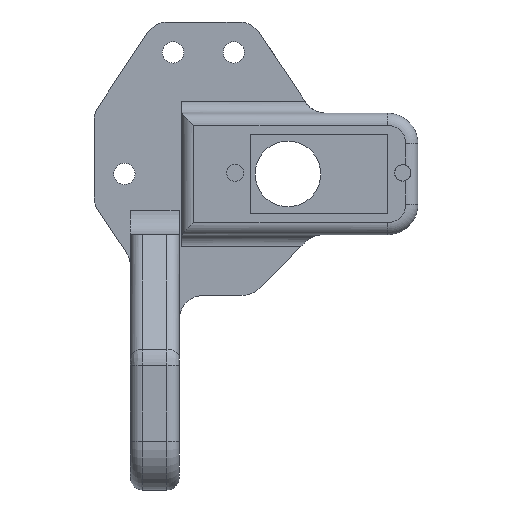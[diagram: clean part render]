
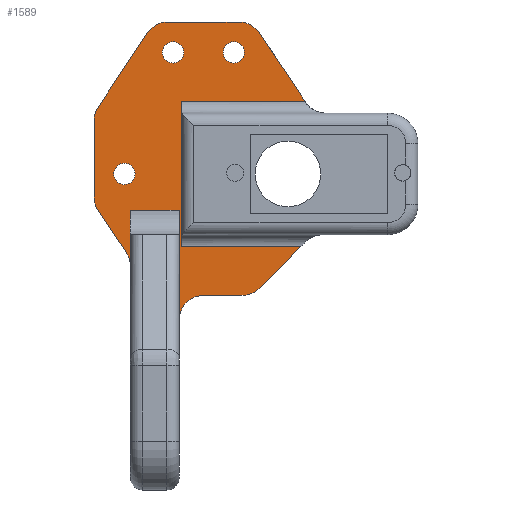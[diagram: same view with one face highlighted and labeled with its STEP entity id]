
A CAD part, front view. The second image highlights one B-rep face of the part: STEP entity #1589.
In plain terms, the highlighted planar face has unit normal (0, -1, 0).
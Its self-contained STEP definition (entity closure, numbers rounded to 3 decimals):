
#45=FACE_BOUND('',#198,.T.);
#46=FACE_BOUND('',#199,.T.);
#47=FACE_BOUND('',#200,.T.);
#62=PLANE('',#1714);
#98=FACE_OUTER_BOUND('',#197,.T.);
#197=EDGE_LOOP('',(#1073,#1074,#1075,#1076,#1077,#1078,#1079,#1080,#1081,
#1082,#1083,#1084,#1085,#1086,#1087,#1088,#1089,#1090,#1091,#1092));
#198=EDGE_LOOP('',(#1093));
#199=EDGE_LOOP('',(#1094));
#200=EDGE_LOOP('',(#1095));
#319=CIRCLE('',#1715,4.);
#320=CIRCLE('',#1716,4.);
#321=CIRCLE('',#1717,4.);
#322=CIRCLE('',#1718,4.);
#323=CIRCLE('',#1719,4.);
#324=CIRCLE('',#1720,4.);
#325=CIRCLE('',#1721,4.);
#326=CIRCLE('',#1722,1.75);
#327=CIRCLE('',#1723,1.75);
#328=CIRCLE('',#1724,1.75);
#425=LINE('',#2489,#546);
#426=LINE('',#2491,#547);
#427=LINE('',#2493,#548);
#428=LINE('',#2497,#549);
#429=LINE('',#2501,#550);
#430=LINE('',#2505,#551);
#431=LINE('',#2509,#552);
#432=LINE('',#2513,#553);
#433=LINE('',#2515,#554);
#434=LINE('',#2517,#555);
#435=LINE('',#2521,#556);
#436=LINE('',#2525,#557);
#437=LINE('',#2526,#558);
#546=VECTOR('',#1952,24.);
#547=VECTOR('',#1953,20.267);
#548=VECTOR('',#1954,13.483);
#549=VECTOR('',#1957,11.719);
#550=VECTOR('',#1960,14.676);
#551=VECTOR('',#1963,12.578);
#552=VECTOR('',#1966,8.394);
#553=VECTOR('',#1969,9.211);
#554=VECTOR('',#1970,8.);
#555=VECTOR('',#1971,18.);
#556=VECTOR('',#1974,6.343);
#557=VECTOR('',#1977,9.657);
#558=VECTOR('',#1978,19.6);
#675=VERTEX_POINT('',#2487);
#676=VERTEX_POINT('',#2488);
#677=VERTEX_POINT('',#2490);
#678=VERTEX_POINT('',#2492);
#679=VERTEX_POINT('',#2494);
#680=VERTEX_POINT('',#2496);
#681=VERTEX_POINT('',#2498);
#682=VERTEX_POINT('',#2500);
#683=VERTEX_POINT('',#2502);
#684=VERTEX_POINT('',#2504);
#685=VERTEX_POINT('',#2506);
#686=VERTEX_POINT('',#2508);
#687=VERTEX_POINT('',#2510);
#688=VERTEX_POINT('',#2512);
#689=VERTEX_POINT('',#2514);
#690=VERTEX_POINT('',#2516);
#691=VERTEX_POINT('',#2518);
#692=VERTEX_POINT('',#2520);
#693=VERTEX_POINT('',#2522);
#694=VERTEX_POINT('',#2524);
#695=VERTEX_POINT('',#2527);
#696=VERTEX_POINT('',#2529);
#697=VERTEX_POINT('',#2531);
#827=EDGE_CURVE('',#675,#676,#425,.T.);
#828=EDGE_CURVE('',#675,#677,#426,.F.);
#829=EDGE_CURVE('',#677,#678,#427,.T.);
#830=EDGE_CURVE('',#678,#679,#319,.F.);
#831=EDGE_CURVE('',#680,#679,#428,.T.);
#832=EDGE_CURVE('',#680,#681,#320,.F.);
#833=EDGE_CURVE('',#682,#681,#429,.T.);
#834=EDGE_CURVE('',#682,#683,#321,.F.);
#835=EDGE_CURVE('',#684,#683,#430,.T.);
#836=EDGE_CURVE('',#684,#685,#322,.F.);
#837=EDGE_CURVE('',#685,#686,#431,.T.);
#838=EDGE_CURVE('',#686,#687,#323,.T.);
#839=EDGE_CURVE('',#687,#688,#432,.T.);
#840=EDGE_CURVE('',#688,#689,#433,.T.);
#841=EDGE_CURVE('',#690,#689,#434,.T.);
#842=EDGE_CURVE('',#690,#691,#324,.T.);
#843=EDGE_CURVE('',#691,#692,#435,.T.);
#844=EDGE_CURVE('',#692,#693,#325,.F.);
#845=EDGE_CURVE('',#693,#694,#436,.T.);
#846=EDGE_CURVE('',#694,#676,#437,.F.);
#847=EDGE_CURVE('',#695,#695,#326,.T.);
#848=EDGE_CURVE('',#696,#696,#327,.T.);
#849=EDGE_CURVE('',#697,#697,#328,.T.);
#1073=ORIENTED_EDGE('',*,*,#827,.F.);
#1074=ORIENTED_EDGE('',*,*,#828,.T.);
#1075=ORIENTED_EDGE('',*,*,#829,.T.);
#1076=ORIENTED_EDGE('',*,*,#830,.T.);
#1077=ORIENTED_EDGE('',*,*,#831,.F.);
#1078=ORIENTED_EDGE('',*,*,#832,.T.);
#1079=ORIENTED_EDGE('',*,*,#833,.F.);
#1080=ORIENTED_EDGE('',*,*,#834,.T.);
#1081=ORIENTED_EDGE('',*,*,#835,.F.);
#1082=ORIENTED_EDGE('',*,*,#836,.T.);
#1083=ORIENTED_EDGE('',*,*,#837,.T.);
#1084=ORIENTED_EDGE('',*,*,#838,.T.);
#1085=ORIENTED_EDGE('',*,*,#839,.T.);
#1086=ORIENTED_EDGE('',*,*,#840,.T.);
#1087=ORIENTED_EDGE('',*,*,#841,.F.);
#1088=ORIENTED_EDGE('',*,*,#842,.T.);
#1089=ORIENTED_EDGE('',*,*,#843,.T.);
#1090=ORIENTED_EDGE('',*,*,#844,.T.);
#1091=ORIENTED_EDGE('',*,*,#845,.T.);
#1092=ORIENTED_EDGE('',*,*,#846,.T.);
#1093=ORIENTED_EDGE('',*,*,#847,.T.);
#1094=ORIENTED_EDGE('',*,*,#848,.T.);
#1095=ORIENTED_EDGE('',*,*,#849,.T.);
#1589=ADVANCED_FACE('',(#98,#45,#46,#47),#62,.F.);
#1714=AXIS2_PLACEMENT_3D('',#2486,#1950,#1951);
#1715=AXIS2_PLACEMENT_3D('',#2495,#1955,#1956);
#1716=AXIS2_PLACEMENT_3D('',#2499,#1958,#1959);
#1717=AXIS2_PLACEMENT_3D('',#2503,#1961,#1962);
#1718=AXIS2_PLACEMENT_3D('',#2507,#1964,#1965);
#1719=AXIS2_PLACEMENT_3D('',#2511,#1967,#1968);
#1720=AXIS2_PLACEMENT_3D('',#2519,#1972,#1973);
#1721=AXIS2_PLACEMENT_3D('',#2523,#1975,#1976);
#1722=AXIS2_PLACEMENT_3D('',#2528,#1979,#1980);
#1723=AXIS2_PLACEMENT_3D('',#2530,#1981,#1982);
#1724=AXIS2_PLACEMENT_3D('',#2532,#1983,#1984);
#1950=DIRECTION('center_axis',(0.,1.,0.));
#1951=DIRECTION('ref_axis',(0.,0.,1.));
#1952=DIRECTION('',(0.,0.,-1.));
#1953=DIRECTION('',(-1.,0.,0.));
#1954=DIRECTION('',(-0.555,0.,0.832));
#1955=DIRECTION('center_axis',(0.,1.,0.));
#1956=DIRECTION('ref_axis',(0.,0.,1.));
#1957=DIRECTION('',(1.,0.,0.));
#1958=DIRECTION('center_axis',(0.,1.,0.));
#1959=DIRECTION('ref_axis',(0.,0.,1.));
#1960=DIRECTION('',(0.555,0.,0.832));
#1961=DIRECTION('center_axis',(0.,1.,0.));
#1962=DIRECTION('ref_axis',(0.,0.,1.));
#1963=DIRECTION('',(0.,0.,1.));
#1964=DIRECTION('center_axis',(0.,1.,0.));
#1965=DIRECTION('ref_axis',(0.,0.,1.));
#1966=DIRECTION('',(0.555,0.,-0.832));
#1967=DIRECTION('center_axis',(0.,1.,0.));
#1968=DIRECTION('ref_axis',(0.,0.,1.));
#1969=DIRECTION('',(0.,0.,1.));
#1970=DIRECTION('',(1.,0.,0.));
#1971=DIRECTION('',(0.,0.,1.));
#1972=DIRECTION('center_axis',(0.,1.,0.));
#1973=DIRECTION('ref_axis',(0.,0.,1.));
#1974=DIRECTION('',(1.,0.,0.));
#1975=DIRECTION('center_axis',(0.,1.,0.));
#1976=DIRECTION('ref_axis',(0.,0.,1.));
#1977=DIRECTION('',(0.707,0.,0.707));
#1978=DIRECTION('',(1.,0.,0.));
#1979=DIRECTION('center_axis',(0.,1.,0.));
#1980=DIRECTION('ref_axis',(0.,0.,1.));
#1981=DIRECTION('center_axis',(0.,1.,0.));
#1982=DIRECTION('ref_axis',(0.,0.,1.));
#1983=DIRECTION('center_axis',(0.,1.,0.));
#1984=DIRECTION('ref_axis',(0.,0.,1.));
#2486=CARTESIAN_POINT('Origin',(0.,0.,0.));
#2487=CARTESIAN_POINT('',(-15.6,0.,9.5));
#2488=CARTESIAN_POINT('',(-15.6,0.,-14.5));
#2489=CARTESIAN_POINT('',(-15.6,0.,9.5));
#2490=CARTESIAN_POINT('',(4.667,0.,9.5));
#2491=CARTESIAN_POINT('',(4.667,0.,9.5));
#2492=CARTESIAN_POINT('',(-2.813,0.,20.719));
#2493=CARTESIAN_POINT('',(4.667,0.,9.5));
#2494=CARTESIAN_POINT('',(-6.141,0.,22.5));
#2495=CARTESIAN_POINT('Origin',(-6.141,0.,18.5));
#2496=CARTESIAN_POINT('',(-17.859,0.,22.5));
#2497=CARTESIAN_POINT('',(-17.859,0.,22.5));
#2498=CARTESIAN_POINT('',(-21.187,0.,20.719));
#2499=CARTESIAN_POINT('Origin',(-17.859,0.,18.5));
#2500=CARTESIAN_POINT('',(-29.328,0.,8.508));
#2501=CARTESIAN_POINT('',(-29.328,0.,8.508));
#2502=CARTESIAN_POINT('',(-30.,0.,6.289));
#2503=CARTESIAN_POINT('Origin',(-26.,0.,6.289));
#2504=CARTESIAN_POINT('',(-30.,0.,-6.289));
#2505=CARTESIAN_POINT('',(-30.,0.,-6.289));
#2506=CARTESIAN_POINT('',(-29.328,0.,-8.508));
#2507=CARTESIAN_POINT('Origin',(-26.,0.,-6.289));
#2508=CARTESIAN_POINT('',(-24.672,0.,-15.492));
#2509=CARTESIAN_POINT('',(-29.328,0.,-8.508));
#2510=CARTESIAN_POINT('',(-24.,0.,-17.711));
#2511=CARTESIAN_POINT('Origin',(-28.,0.,-17.711));
#2512=CARTESIAN_POINT('',(-24.,0.,-8.5));
#2513=CARTESIAN_POINT('',(-24.,0.,-17.711));
#2514=CARTESIAN_POINT('',(-16.,0.,-8.5));
#2515=CARTESIAN_POINT('',(-24.,0.,-8.5));
#2516=CARTESIAN_POINT('',(-16.,0.,-26.5));
#2517=CARTESIAN_POINT('',(-16.,0.,-26.5));
#2518=CARTESIAN_POINT('',(-12.,0.,-22.5));
#2519=CARTESIAN_POINT('Origin',(-12.,0.,-26.5));
#2520=CARTESIAN_POINT('',(-5.657,0.,-22.5));
#2521=CARTESIAN_POINT('',(-12.,0.,-22.5));
#2522=CARTESIAN_POINT('',(-2.828,0.,-21.328));
#2523=CARTESIAN_POINT('Origin',(-5.657,0.,-18.5));
#2524=CARTESIAN_POINT('',(4.,0.,-14.5));
#2525=CARTESIAN_POINT('',(-2.828,0.,-21.328));
#2526=CARTESIAN_POINT('',(-15.6,0.,-14.5));
#2527=CARTESIAN_POINT('',(-25.,0.,-0.75));
#2528=CARTESIAN_POINT('Origin',(-25.,0.,-2.5));
#2529=CARTESIAN_POINT('',(-17.,0.,19.25));
#2530=CARTESIAN_POINT('Origin',(-17.,0.,17.5));
#2531=CARTESIAN_POINT('',(-7.,0.,19.25));
#2532=CARTESIAN_POINT('Origin',(-7.,0.,17.5));
